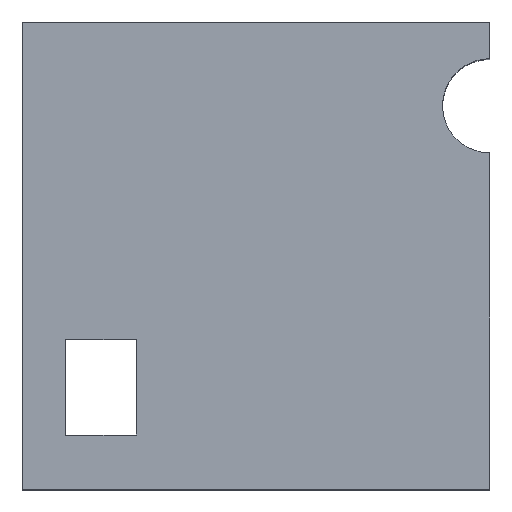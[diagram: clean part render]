
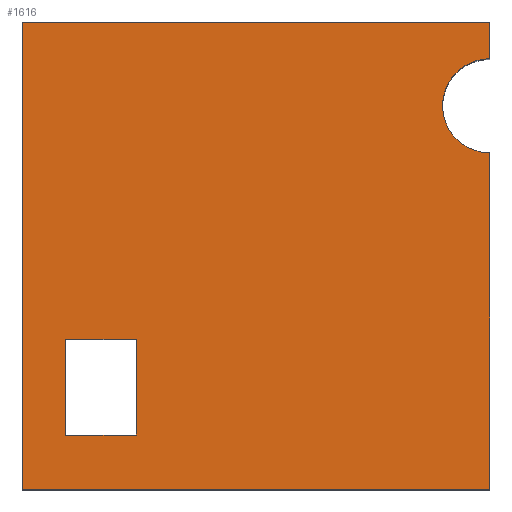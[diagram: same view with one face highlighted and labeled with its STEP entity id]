
A CAD part, top view. The second image highlights one B-rep face of the part: STEP entity #1616.
In plain terms, the highlighted planar face has unit normal (0, 0, 1).
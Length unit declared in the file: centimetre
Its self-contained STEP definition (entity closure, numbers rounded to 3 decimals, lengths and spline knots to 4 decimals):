
#38 = VERTEX_POINT ( 'NONE', #670 ) ;
#60 = ORIENTED_EDGE ( 'NONE', *, *, #891, .T. ) ;
#61 = EDGE_CURVE ( 'NONE', #2088, #537, #1267, .T. ) ;
#84 = LINE ( 'NONE', #225, #2083 ) ;
#134 = CARTESIAN_POINT ( 'NONE',  ( 244.0739, 321.2038, 1000. ) ) ;
#179 = VERTEX_POINT ( 'NONE', #717 ) ;
#191 = EDGE_LOOP ( 'NONE', ( #326, #1910, #1544, #298 ) ) ;
#203 = CARTESIAN_POINT ( 'NONE',  ( 0., 0., 1000. ) ) ;
#207 = LINE ( 'NONE', #385, #2236 ) ;
#220 = LINE ( 'NONE', #573, #898 ) ;
#225 = CARTESIAN_POINT ( 'NONE',  ( 92.2131, 115.9701, 1000. ) ) ;
#226 = VECTOR ( 'NONE', #1526, 100. ) ;
#261 = VERTEX_POINT ( 'NONE', #1985 ) ;
#266 = VECTOR ( 'NONE', #2204, 100. ) ;
#298 = ORIENTED_EDGE ( 'NONE', *, *, #2248, .F. ) ;
#323 = ORIENTED_EDGE ( 'NONE', *, *, #1680, .T. ) ;
#326 = ORIENTED_EDGE ( 'NONE', *, *, #1180, .F. ) ;
#371 = DIRECTION ( 'NONE',  ( 1., 0., 0. ) ) ;
#380 = VERTEX_POINT ( 'NONE', #645 ) ;
#385 = CARTESIAN_POINT ( 'NONE',  ( 0., 1000., 1000. ) ) ;
#416 = DIRECTION ( 'NONE',  ( 0., 0., 1. ) ) ;
#439 = CARTESIAN_POINT ( 'NONE',  ( 244.0739, 115.9701, 1000. ) ) ;
#518 = DIRECTION ( 'NONE',  ( 0., 1., 0. ) ) ;
#537 = VERTEX_POINT ( 'NONE', #2358 ) ;
#550 = CARTESIAN_POINT ( 'NONE',  ( 0., 0., 1000. ) ) ;
#557 = CARTESIAN_POINT ( 'NONE',  ( 244.0739, 115.9701, 1000. ) ) ;
#562 = CIRCLE ( 'NONE', #2040, 100.7139 ) ;
#573 = CARTESIAN_POINT ( 'NONE',  ( 0., 1000., 1000. ) ) ;
#586 = EDGE_CURVE ( 'NONE', #644, #380, #1770, .T. ) ;
#644 = VERTEX_POINT ( 'NONE', #1554 ) ;
#645 = CARTESIAN_POINT ( 'NONE',  ( 1000., 719.9767, 1000. ) ) ;
#670 = CARTESIAN_POINT ( 'NONE',  ( 0., 1000., 1000. ) ) ;
#717 = CARTESIAN_POINT ( 'NONE',  ( 92.2131, 115.9701, 1000. ) ) ;
#755 = FACE_OUTER_BOUND ( 'NONE', #1899, .T. ) ;
#774 = VERTEX_POINT ( 'NONE', #203 ) ;
#850 = LINE ( 'NONE', #1940, #1533 ) ;
#891 = EDGE_CURVE ( 'NONE', #38, #774, #220, .T. ) ;
#895 = EDGE_CURVE ( 'NONE', #261, #38, #207, .T. ) ;
#898 = VECTOR ( 'NONE', #2061, 100. ) ;
#938 = DIRECTION ( 'NONE',  ( 0., 0., -1. ) ) ;
#985 = DIRECTION ( 'NONE',  ( -1., 0., 0. ) ) ;
#1024 = DIRECTION ( 'NONE',  ( 0., 1., 0. ) ) ;
#1044 = ORIENTED_EDGE ( 'NONE', *, *, #586, .T. ) ;
#1077 = VECTOR ( 'NONE', #518, 100. ) ;
#1079 = CARTESIAN_POINT ( 'NONE',  ( 92.2131, 321.2038, 1000. ) ) ;
#1084 = CARTESIAN_POINT ( 'NONE',  ( 1000., 820.6906, 1000. ) ) ;
#1103 = EDGE_CURVE ( 'NONE', #1757, #1860, #1443, .T. ) ;
#1112 = DIRECTION ( 'NONE',  ( 0., -1., 0. ) ) ;
#1147 = DIRECTION ( 'NONE',  ( -1., 0., 0. ) ) ;
#1180 = EDGE_CURVE ( 'NONE', #1551, #179, #84, .T. ) ;
#1199 = DIRECTION ( 'NONE',  ( 0., 0., -1. ) ) ;
#1206 = CARTESIAN_POINT ( 'NONE',  ( 1000., 1000., 1000. ) ) ;
#1267 = CIRCLE ( 'NONE', #1996, 100.7139 ) ;
#1302 = ORIENTED_EDGE ( 'NONE', *, *, #895, .T. ) ;
#1390 = VECTOR ( 'NONE', #1399, 100. ) ;
#1399 = DIRECTION ( 'NONE',  ( 1., 0., 0. ) ) ;
#1432 = DIRECTION ( 'NONE',  ( 0., 1., 0. ) ) ;
#1443 = LINE ( 'NONE', #557, #1454 ) ;
#1454 = VECTOR ( 'NONE', #1024, 100. ) ;
#1525 = CARTESIAN_POINT ( 'NONE',  ( 1000., 820.6906, 1000. ) ) ;
#1526 = DIRECTION ( 'NONE',  ( 1., 0., 0. ) ) ;
#1533 = VECTOR ( 'NONE', #1432, 100. ) ;
#1540 = CARTESIAN_POINT ( 'NONE',  ( 92.2131, 115.9701, 1000. ) ) ;
#1544 = ORIENTED_EDGE ( 'NONE', *, *, #1103, .F. ) ;
#1551 = VERTEX_POINT ( 'NONE', #2232 ) ;
#1554 = CARTESIAN_POINT ( 'NONE',  ( 1000., 0., 1000. ) ) ;
#1580 = LINE ( 'NONE', #1540, #1390 ) ;
#1582 = ORIENTED_EDGE ( 'NONE', *, *, #2195, .T. ) ;
#1616 = ADVANCED_FACE ( 'NONE', ( #2196, #755 ), #1816, .T. ) ;
#1624 = LINE ( 'NONE', #1079, #266 ) ;
#1653 = DIRECTION ( 'NONE',  ( -1., 0., 0. ) ) ;
#1680 = EDGE_CURVE ( 'NONE', #380, #2088, #562, .T. ) ;
#1757 = VERTEX_POINT ( 'NONE', #439 ) ;
#1766 = LINE ( 'NONE', #2136, #226 ) ;
#1770 = LINE ( 'NONE', #1206, #1077 ) ;
#1816 = PLANE ( 'NONE',  #2323 ) ;
#1860 = VERTEX_POINT ( 'NONE', #134 ) ;
#1888 = EDGE_CURVE ( 'NONE', #537, #261, #850, .T. ) ;
#1899 = EDGE_LOOP ( 'NONE', ( #323, #2119, #2276, #1302, #60, #1582, #1044 ) ) ;
#1910 = ORIENTED_EDGE ( 'NONE', *, *, #1971, .F. ) ;
#1940 = CARTESIAN_POINT ( 'NONE',  ( 1000., 1000., 1000. ) ) ;
#1971 = EDGE_CURVE ( 'NONE', #1860, #1551, #1624, .T. ) ;
#1985 = CARTESIAN_POINT ( 'NONE',  ( 1000., 1000., 1000. ) ) ;
#1996 = AXIS2_PLACEMENT_3D ( 'NONE', #1525, #1199, #985 ) ;
#2040 = AXIS2_PLACEMENT_3D ( 'NONE', #1084, #938, #1653 ) ;
#2061 = DIRECTION ( 'NONE',  ( 0., -1., 0. ) ) ;
#2083 = VECTOR ( 'NONE', #1112, 100. ) ;
#2088 = VERTEX_POINT ( 'NONE', #2271 ) ;
#2119 = ORIENTED_EDGE ( 'NONE', *, *, #61, .T. ) ;
#2136 = CARTESIAN_POINT ( 'NONE',  ( 0., 0., 1000. ) ) ;
#2195 = EDGE_CURVE ( 'NONE', #774, #644, #1766, .T. ) ;
#2196 = FACE_BOUND ( 'NONE', #191, .T. ) ;
#2204 = DIRECTION ( 'NONE',  ( -1., 0., 0. ) ) ;
#2232 = CARTESIAN_POINT ( 'NONE',  ( 92.2131, 321.2038, 1000. ) ) ;
#2236 = VECTOR ( 'NONE', #1147, 100. ) ;
#2248 = EDGE_CURVE ( 'NONE', #179, #1757, #1580, .T. ) ;
#2271 = CARTESIAN_POINT ( 'NONE',  ( 899.2861, 820.6906, 1000. ) ) ;
#2276 = ORIENTED_EDGE ( 'NONE', *, *, #1888, .T. ) ;
#2323 = AXIS2_PLACEMENT_3D ( 'NONE', #550, #416, #371 ) ;
#2358 = CARTESIAN_POINT ( 'NONE',  ( 1000., 921.4045, 1000. ) ) ;
